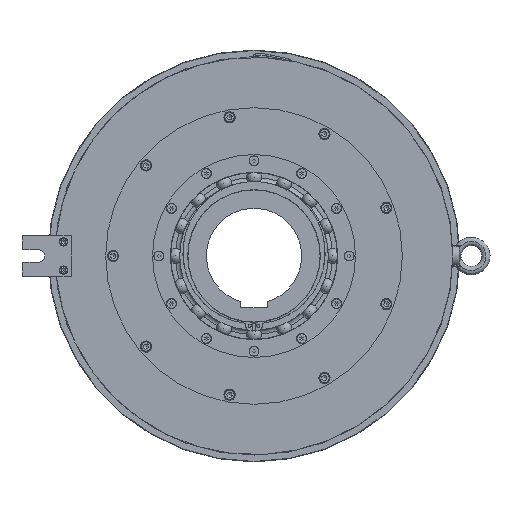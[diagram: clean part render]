
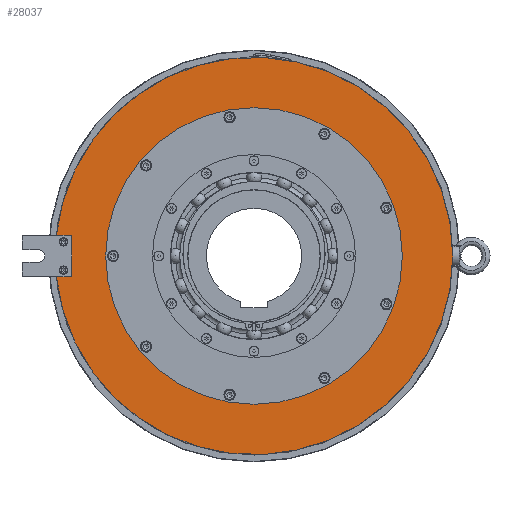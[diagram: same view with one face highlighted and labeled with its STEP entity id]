
A CAD part, left-side view. The second image highlights one B-rep face of the part: STEP entity #28037.
In plain terms, the highlighted planar face has unit normal (-1, 0, 0).
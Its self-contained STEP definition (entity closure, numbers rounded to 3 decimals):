
#1161=FACE_BOUND('',#7490,.T.);
#1605=PLANE('',#31343);
#2695=LINE('',#62618,#3884);
#2696=LINE('',#62620,#3885);
#2697=LINE('',#62624,#3886);
#3884=VECTOR('',#38864,10.);
#3885=VECTOR('',#38865,10.);
#3886=VECTOR('',#38868,10.);
#5703=FACE_OUTER_BOUND('',#7489,.T.);
#7489=EDGE_LOOP('',(#25132,#25133,#25134,#25135,#25136,#25137,#25138));
#7490=EDGE_LOOP('',(#25139,#25140));
#9621=CIRCLE('',#31320,239.8);
#9624=CIRCLE('',#31323,239.8);
#9638=CIRCLE('',#31344,2.);
#9639=CIRCLE('',#31345,2.);
#9640=CIRCLE('',#31346,179.);
#9641=CIRCLE('',#31347,179.);
#13095=VERTEX_POINT('',#62488);
#13096=VERTEX_POINT('',#62490);
#13097=VERTEX_POINT('',#62492);
#13117=VERTEX_POINT('',#62617);
#13118=VERTEX_POINT('',#62619);
#13119=VERTEX_POINT('',#62621);
#13120=VERTEX_POINT('',#62623);
#13121=VERTEX_POINT('',#62626);
#13122=VERTEX_POINT('',#62627);
#17169=EDGE_CURVE('',#13097,#13096,#9621,.T.);
#17178=EDGE_CURVE('',#13095,#13097,#9624,.T.);
#17197=EDGE_CURVE('',#13117,#13095,#2695,.T.);
#17198=EDGE_CURVE('',#13096,#13118,#2696,.T.);
#17199=EDGE_CURVE('',#13118,#13119,#9638,.T.);
#17200=EDGE_CURVE('',#13119,#13120,#2697,.T.);
#17201=EDGE_CURVE('',#13120,#13117,#9639,.T.);
#17202=EDGE_CURVE('',#13121,#13122,#9640,.T.);
#17203=EDGE_CURVE('',#13122,#13121,#9641,.T.);
#25132=ORIENTED_EDGE('',*,*,#17197,.T.);
#25133=ORIENTED_EDGE('',*,*,#17178,.T.);
#25134=ORIENTED_EDGE('',*,*,#17169,.T.);
#25135=ORIENTED_EDGE('',*,*,#17198,.T.);
#25136=ORIENTED_EDGE('',*,*,#17199,.T.);
#25137=ORIENTED_EDGE('',*,*,#17200,.T.);
#25138=ORIENTED_EDGE('',*,*,#17201,.T.);
#25139=ORIENTED_EDGE('',*,*,#17202,.T.);
#25140=ORIENTED_EDGE('',*,*,#17203,.T.);
#28037=ADVANCED_FACE('',(#5703,#1161),#1605,.T.);
#31320=AXIS2_PLACEMENT_3D('',#62493,#38809,#38810);
#31323=AXIS2_PLACEMENT_3D('',#62543,#38819,#38820);
#31343=AXIS2_PLACEMENT_3D('',#62616,#38862,#38863);
#31344=AXIS2_PLACEMENT_3D('',#62622,#38866,#38867);
#31345=AXIS2_PLACEMENT_3D('',#62625,#38869,#38870);
#31346=AXIS2_PLACEMENT_3D('',#62628,#38871,#38872);
#31347=AXIS2_PLACEMENT_3D('',#62629,#38873,#38874);
#38809=DIRECTION('center_axis',(-1.,0.,0.));
#38810=DIRECTION('ref_axis',(0.,1.,0.));
#38819=DIRECTION('center_axis',(-1.,0.,0.));
#38820=DIRECTION('ref_axis',(0.,1.,0.));
#38862=DIRECTION('center_axis',(-1.,0.,0.));
#38863=DIRECTION('ref_axis',(0.,0.,
1.));
#38864=DIRECTION('',(0.,1.,0.));
#38865=DIRECTION('',(0.,-1.,0.));
#38866=DIRECTION('center_axis',(1.,0.,0.));
#38867=DIRECTION('ref_axis',(0.,-0.707,0.707));
#38868=DIRECTION('',(0.,0.,-1.));
#38869=DIRECTION('center_axis',(1.,0.,0.));
#38870=DIRECTION('ref_axis',(0.,-0.707,-0.707));
#38871=DIRECTION('center_axis',(1.,0.,0.));
#38872=DIRECTION('ref_axis',(0.,1.,0.));
#38873=DIRECTION('center_axis',(1.,0.,0.));
#38874=DIRECTION('ref_axis',(0.,1.,0.));
#62488=CARTESIAN_POINT('',(-112.,238.493,-25.));
#62490=CARTESIAN_POINT('',(-112.,238.493,25.));
#62492=CARTESIAN_POINT('',(-112.,-239.8,0.));
#62493=CARTESIAN_POINT('Origin',(-112.,0.,0.));
#62543=CARTESIAN_POINT('Origin',(-112.,0.,0.));
#62616=CARTESIAN_POINT('Origin',(-112.,201.15,0.));
#62617=CARTESIAN_POINT('',(-112.,222.,-25.));
#62618=CARTESIAN_POINT('',(-112.,210.575,-25.));
#62619=CARTESIAN_POINT('',(-112.,222.,25.));
#62620=CARTESIAN_POINT('',(-112.,240.575,25.));
#62621=CARTESIAN_POINT('',(-112.,220.,23.));
#62622=CARTESIAN_POINT('Origin',(-112.,222.,23.));
#62623=CARTESIAN_POINT('',(-112.,220.,-23.));
#62624=CARTESIAN_POINT('',(-112.,220.,12.5));
#62625=CARTESIAN_POINT('Origin',(-112.,222.,-23.));
#62626=CARTESIAN_POINT('',(-112.,179.,0.));
#62627=CARTESIAN_POINT('',(-112.,-179.,0.));
#62628=CARTESIAN_POINT('Origin',(-112.,0.,0.));
#62629=CARTESIAN_POINT('Origin',(-112.,0.,0.));
